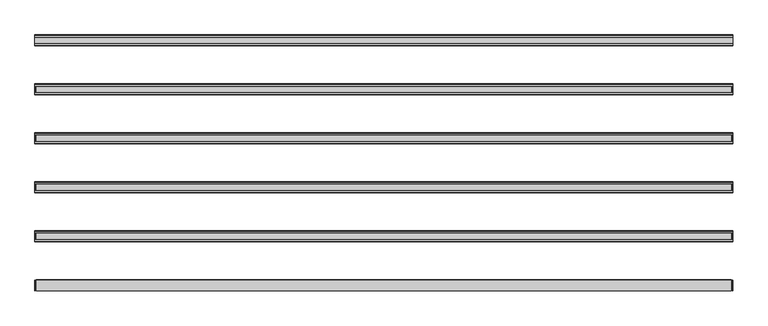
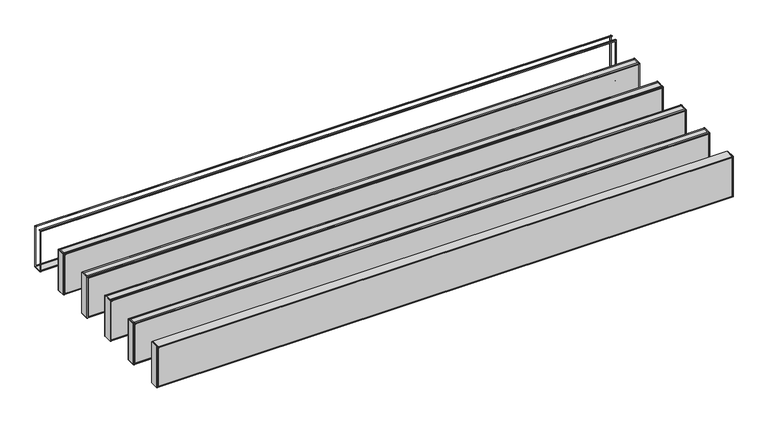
"""IFC4 building model written with IfcOpenShell, lengths in millimetres: proxy geometry, durlum_POLYLAM_KS : durlum_POLYLAM-KS/-S 63 RV-L6."""

from ifc_helpers import new_model, si_unit, frame, origin, place, context, project, spatial, polyline, circle_curve, outline, extrude, source, transform, mapped, element, save
from ifc_brep_helpers import plane_surface, cylinder_surface, advanced_brep


def generic_models_c9cba1a2(model_context):
    return source(origin(), model_context, "Body", "SolidModel", [
        advanced_brep(
        [(1995.0, 309.5, 1990.9), (1995.0, 299.5, 1990.9), (1995.0, 299.5, 1990.0604454), (1995.0, 310.5, 1990.0604454), (1995.0, 310.5, 1691.9), (1995.0, 249.5, 1691.9), (1995.0, 249.5, 1989.8155735), (1995.0, 260.5, 1989.8155735), (1995.0, 260.5, 1990.9), (1995.0, 250.5, 1990.9), (1995.0, 248.5, 1988.9), (1995.0, 248.5, 1692.9), (1995.0, 250.5, 1690.9), (1995.0, 309.5, 1690.9), (1995.0, 311.5, 1692.9), (1995.0, 311.5, 1988.9), (-1995.0, 309.5, 1990.9), (-1995.0, 311.5, 1988.9), (-1995.0, 311.5, 1692.9), (-1995.0, 309.5, 1690.9), (-1995.0, 250.5, 1690.9), (-1995.0, 248.5, 1692.9), (-1995.0, 248.5, 1988.9), (-1995.0, 250.5, 1990.9), (-1995.0, 260.5, 1990.9), (-1995.0, 260.5, 1989.8155735), (-1995.0, 249.5, 1989.8155735), (-1995.0, 249.5, 1691.9), (-1995.0, 310.5, 1691.9), (-1995.0, 310.5, 1990.0604454), (-1995.0, 299.5, 1990.0604454), (-1995.0, 299.5, 1990.9), (-1986.5, 310.5, 1982.4), (1986.5, 310.5, 1982.4), (1986.5, 310.5, 1699.4), (-1986.5, 310.5, 1699.4), (1986.5, 249.5, 1982.4), (-1986.5, 249.5, 1982.4), (-1986.5, 249.5, 1699.4), (1986.5, 249.5, 1699.4), (-1986.5, 248.5, 1982.4), (1986.5, 248.5, 1982.4), (1986.5, 248.5, 1699.4), (-1986.5, 248.5, 1699.4), (1986.5, 311.5, 1982.4), (-1986.5, 311.5, 1982.4), (-1986.5, 311.5, 1699.4), (1986.5, 311.5, 1699.4)],
        [
            (0, 1),
            (1, 2),
            (2, 3),
            (3, 4),
            (4, 5),
            (5, 6),
            (6, 7),
            (7, 8),
            (8, 9),
            (9, 10, circle_curve(frame((1995.0, 250.5, 1988.9), z_axis=(1.0, 0.0, 0.0), x_axis=(0.0, 1.0, 0.0)), 2.0)),
            (10, 11),
            (11, 12, circle_curve(frame((1995.0, 250.5, 1692.9), z_axis=(1.0, 0.0, 0.0), x_axis=(0.0, 1.0, 0.0)), 2.0)),
            (12, 13),
            (13, 14, circle_curve(frame((1995.0, 309.5, 1692.9), z_axis=(1.0, 0.0, 0.0), x_axis=(0.0, 1.0, 0.0)), 2.0)),
            (14, 15),
            (15, 0, circle_curve(frame((1995.0, 309.5, 1988.9), z_axis=(1.0, 0.0, 0.0), x_axis=(0.0, 1.0, 0.0)), 2.0)),
            (16, 17, circle_curve(frame((-1995.0, 309.5, 1988.9), z_axis=(-1.0, 0.0, 0.0), x_axis=(0.0, 1.0, 0.0)), 2.0)),
            (17, 18),
            (18, 19, circle_curve(frame((-1995.0, 309.5, 1692.9), z_axis=(-1.0, 0.0, 0.0), x_axis=(0.0, 1.0, 0.0)), 2.0)),
            (19, 20),
            (20, 21, circle_curve(frame((-1995.0, 250.5, 1692.9), z_axis=(-1.0, 0.0, 0.0), x_axis=(0.0, 1.0, 0.0)), 2.0)),
            (21, 22),
            (22, 23, circle_curve(frame((-1995.0, 250.5, 1988.9), z_axis=(-1.0, 0.0, 0.0), x_axis=(0.0, 1.0, 0.0)), 2.0)),
            (23, 24),
            (24, 25),
            (25, 26),
            (26, 27),
            (27, 28),
            (28, 29),
            (29, 30),
            (30, 31),
            (31, 16),
            (0, 16),
            (31, 1),
            (30, 2),
            (29, 3),
            (28, 4),
            (32, 33),
            (33, 34),
            (34, 35),
            (35, 32),
            (27, 5),
            (26, 6),
            (36, 37),
            (37, 38),
            (38, 39),
            (39, 36),
            (25, 7),
            (24, 8),
            (23, 9),
            (10, 22),
            (21, 11),
            (40, 41),
            (41, 42),
            (42, 43),
            (43, 40),
            (12, 20),
            (19, 13),
            (14, 18),
            (17, 15),
            (44, 45),
            (45, 46),
            (46, 47),
            (47, 44),
            (44, 33),
            (32, 45),
            (36, 41),
            (40, 37),
            (35, 46),
            (43, 38),
            (34, 47),
            (42, 39),
        ],
        [
            plane_surface(frame((1995.0, 299.5, 1990.9), z_axis=(1.0, 0.0, 0.0), x_axis=(0.0, -1.0, 0.0))),
            plane_surface(frame((-1995.0, 299.5, 1990.9), z_axis=(-1.0, 0.0, 0.0), x_axis=(0.0, 1.0, 0.0))),
            plane_surface(frame((1995.0, 309.5, 1990.9), z_axis=(0.0, 0.0, 1.0), x_axis=(-1.0, 0.0, 0.0))),
            plane_surface(frame((1995.0, 299.5, 1990.9), z_axis=(0.0, -1.0, 0.0), x_axis=(-1.0, 0.0, 0.0))),
            plane_surface(frame((1995.0, 299.5, 1990.0604454), z_axis=(0.0, 0.0, -1.0), x_axis=(-1.0, 0.0, 0.0))),
            plane_surface(frame((1995.0, 310.5, 1990.0604454), z_axis=(0.0, -1.0, 0.0), x_axis=(-1.0, 0.0, 0.0))),
            plane_surface(frame((1995.0, 310.5, 1691.9), z_axis=(0.0, 0.0, 1.0), x_axis=(-1.0, 0.0, 0.0))),
            plane_surface(frame((1995.0, 249.5, 1691.9), z_axis=(0.0, 1.0, 0.0), x_axis=(-1.0, 0.0, 0.0))),
            plane_surface(frame((1995.0, 249.5, 1989.8155735), z_axis=(0.0, 0.0, -1.0), x_axis=(-1.0, 0.0, 0.0))),
            plane_surface(frame((1995.0, 260.5, 1989.8155735), z_axis=(0.0, 1.0, 0.0), x_axis=(-1.0, 0.0, 0.0))),
            plane_surface(frame((1995.0, 260.5, 1990.9), z_axis=(0.0, 0.0, 1.0), x_axis=(-1.0, 0.0, 0.0))),
            plane_surface(frame((1995.0, 248.5, 1988.9), z_axis=(0.0, -1.0, 0.0), x_axis=(-1.0, 0.0, 0.0))),
            plane_surface(frame((1995.0, 250.5, 1690.9), z_axis=(0.0, 0.0, -1.0), x_axis=(-1.0, 0.0, 0.0))),
            plane_surface(frame((1995.0, 311.5, 1692.9), z_axis=(0.0, 1.0, 0.0), x_axis=(-1.0, 0.0, 0.0))),
            cylinder_surface(frame((-1995.0, 250.5, 1988.9), z_axis=(1.0, 0.0, 0.0), x_axis=(0.0, 1.0, 0.0)), 2.0),
            cylinder_surface(frame((-1995.0, 250.5, 1692.9), z_axis=(1.0, 0.0, 0.0), x_axis=(0.0, 1.0, 0.0)), 2.0),
            cylinder_surface(frame((-1995.0, 309.5, 1692.9), z_axis=(1.0, 0.0, 0.0), x_axis=(0.0, 1.0, 0.0)), 2.0),
            cylinder_surface(frame((-1995.0, 309.5, 1988.9), z_axis=(1.0, 0.0, 0.0), x_axis=(0.0, 1.0, 0.0)), 2.0),
            plane_surface(frame((1986.5, 248.5, 1982.4), z_axis=(0.0, 0.0, -1.0), x_axis=(0.0, 1.0, 0.0))),
            plane_surface(frame((-1986.5, 248.5, 1982.4), z_axis=(1.0, 0.0, 0.0), x_axis=(0.0, 1.0, 0.0))),
            plane_surface(frame((-1986.5, 248.5, 1699.4), z_axis=(0.0, 0.0, 1.0), x_axis=(0.0, 1.0, 0.0))),
            plane_surface(frame((1986.5, 248.5, 1699.4), z_axis=(-1.0, 0.0, 0.0), x_axis=(0.0, 1.0, 0.0))),
        ],
        [
            (0, [[1, 2, 3, 4, 5, 6, 7, 8, 9, 10, 11, 12, 13, 14, 15, 16]]),
            (1, [[17, 18, 19, 20, 21, 22, 23, 24, 25, 26, 27, 28, 29, 30, 31, 32]]),
            (2, [[-1, 33, -32, 34]]),
            (3, [[-2, -34, -31, 35]]),
            (4, [[-3, -35, -30, 36]]),
            (5, [[-4, -36, -29, 37], [38, 39, 40, 41]]),
            (6, [[-5, -37, -28, 42]]),
            (7, [[-6, -42, -27, 43], [44, 45, 46, 47]]),
            (8, [[-7, -43, -26, 48]]),
            (9, [[-8, -48, -25, 49]]),
            (10, [[-9, -49, -24, 50]]),
            (11, [[-11, 51, -22, 52], [53, 54, 55, 56]]),
            (12, [[-13, 57, -20, 58]]),
            (13, [[-15, 59, -18, 60], [61, 62, 63, 64]]),
            (14, [[-10, -50, -23, -51]]),
            (15, [[-12, -52, -21, -57]]),
            (16, [[-14, -58, -19, -59]]),
            (17, [[-16, -60, -17, -33]]),
            (18, [[65, -38, 66, -61]]),
            (18, [[67, -53, 68, -44]]),
            (19, [[-66, -41, 69, -62]]),
            (19, [[-68, -56, 70, -45]]),
            (20, [[-69, -40, 71, -63]]),
            (20, [[-70, -55, 72, -46]]),
            (21, [[-65, -64, -71, -39]]),
            (21, [[-67, -47, -72, -54]]),
        ],
    ),
        extrude(outline(polyline([(1993.0, 30.5), (1995.0, 30.5), (1995.0, -30.5), (1993.0, -30.5), (1993.0, 30.5)])), frame((0.0, 0.0, 1691.9), z_axis=(0.0, 0.0, 1.0), x_axis=(1.0, 0.0, 0.0)), (0.0, 0.0, 1.0), 298.1604454),
        extrude(outline(polyline([(-1995.0, 30.5), (-1993.0, 30.5), (-1993.0, -30.5), (-1995.0, -30.5), (-1995.0, 30.5)])), frame((0.0, 0.0, 1691.9), z_axis=(0.0, 0.0, 1.0), x_axis=(1.0, 0.0, 0.0)), (0.0, 0.0, 1.0), 298.1604454),
        extrude(outline(polyline([(1986.5, 30.5), (1986.5, -30.5), (-1986.5, -30.5), (-1986.5, 30.5), (1986.5, 30.5)])), frame((0.0, 0.0, 1691.9), z_axis=(0.0, 0.0, 1.0), x_axis=(1.0, 0.0, 0.0)), (0.0, 0.0, 1.0), 298.0),
        extrude(outline(polyline([(1986.5, 30.5), (-1986.5, 30.5), (-1986.5, 31.5), (1986.5, 31.5), (1986.5, 30.5)])), frame((0.0, 0.0, 1699.4), z_axis=(0.0, 0.0, 1.0), x_axis=(1.0, 0.0, 0.0)), (0.0, 0.0, 1.0), 283.0),
        extrude(outline(polyline([(1986.5, -31.5), (-1986.5, -31.5), (-1986.5, -30.5), (1986.5, -30.5), (1986.5, -31.5)])), frame((0.0, 0.0, 1699.4), z_axis=(0.0, 0.0, 1.0), x_axis=(1.0, 0.0, 0.0)), (0.0, 0.0, 1.0), 283.0),
        advanced_brep(
        [(1995.0, 29.5, 1990.9), (1995.0, 19.5, 1990.9), (1995.0, 19.5, 1990.0604454), (1995.0, 30.5, 1990.0604454), (1995.0, 30.5, 1691.9), (1995.0, -30.5, 1691.9), (1995.0, -30.5, 1989.8155735), (1995.0, -19.5, 1989.8155735), (1995.0, -19.5, 1990.9), (1995.0, -29.5, 1990.9), (1995.0, -31.5, 1988.9), (1995.0, -31.5, 1692.9), (1995.0, -29.5, 1690.9), (1995.0, 29.5, 1690.9), (1995.0, 31.5, 1692.9), (1995.0, 31.5, 1988.9), (-1995.0, 29.5, 1990.9), (-1995.0, 31.5, 1988.9), (-1995.0, 31.5, 1692.9), (-1995.0, 29.5, 1690.9), (-1995.0, -29.5, 1690.9), (-1995.0, -31.5, 1692.9), (-1995.0, -31.5, 1988.9), (-1995.0, -29.5, 1990.9), (-1995.0, -19.5, 1990.9), (-1995.0, -19.5, 1989.8155735), (-1995.0, -30.5, 1989.8155735), (-1995.0, -30.5, 1691.9), (-1995.0, 30.5, 1691.9), (-1995.0, 30.5, 1990.0604454), (-1995.0, 19.5, 1990.0604454), (-1995.0, 19.5, 1990.9), (-1986.5, 30.5, 1982.4), (1986.5, 30.5, 1982.4), (1986.5, 30.5, 1699.4), (-1986.5, 30.5, 1699.4), (1986.5, -30.5, 1982.4), (-1986.5, -30.5, 1982.4), (-1986.5, -30.5, 1699.4), (1986.5, -30.5, 1699.4), (-1986.5, -31.5, 1982.4), (1986.5, -31.5, 1982.4), (1986.5, -31.5, 1699.4), (-1986.5, -31.5, 1699.4), (1986.5, 31.5, 1982.4), (-1986.5, 31.5, 1982.4), (-1986.5, 31.5, 1699.4), (1986.5, 31.5, 1699.4)],
        [
            (0, 1),
            (1, 2),
            (2, 3),
            (3, 4),
            (4, 5),
            (5, 6),
            (6, 7),
            (7, 8),
            (8, 9),
            (9, 10, circle_curve(frame((1995.0, -29.5, 1988.9), z_axis=(1.0, 0.0, 0.0), x_axis=(0.0, 1.0, 0.0)), 2.0)),
            (10, 11),
            (11, 12, circle_curve(frame((1995.0, -29.5, 1692.9), z_axis=(1.0, 0.0, 0.0), x_axis=(0.0, 1.0, 0.0)), 2.0)),
            (12, 13),
            (13, 14, circle_curve(frame((1995.0, 29.5, 1692.9), z_axis=(1.0, 0.0, 0.0), x_axis=(0.0, 1.0, 0.0)), 2.0)),
            (14, 15),
            (15, 0, circle_curve(frame((1995.0, 29.5, 1988.9), z_axis=(1.0, 0.0, 0.0), x_axis=(0.0, 1.0, 0.0)), 2.0)),
            (16, 17, circle_curve(frame((-1995.0, 29.5, 1988.9), z_axis=(-1.0, 0.0, 0.0), x_axis=(0.0, 1.0, 0.0)), 2.0)),
            (17, 18),
            (18, 19, circle_curve(frame((-1995.0, 29.5, 1692.9), z_axis=(-1.0, 0.0, 0.0), x_axis=(0.0, 1.0, 0.0)), 2.0)),
            (19, 20),
            (20, 21, circle_curve(frame((-1995.0, -29.5, 1692.9), z_axis=(-1.0, 0.0, 0.0), x_axis=(0.0, 1.0, 0.0)), 2.0)),
            (21, 22),
            (22, 23, circle_curve(frame((-1995.0, -29.5, 1988.9), z_axis=(-1.0, 0.0, 0.0), x_axis=(0.0, 1.0, 0.0)), 2.0)),
            (23, 24),
            (24, 25),
            (25, 26),
            (26, 27),
            (27, 28),
            (28, 29),
            (29, 30),
            (30, 31),
            (31, 16),
            (0, 16),
            (31, 1),
            (30, 2),
            (29, 3),
            (28, 4),
            (32, 33),
            (33, 34),
            (34, 35),
            (35, 32),
            (27, 5),
            (26, 6),
            (36, 37),
            (37, 38),
            (38, 39),
            (39, 36),
            (25, 7),
            (24, 8),
            (23, 9),
            (10, 22),
            (21, 11),
            (40, 41),
            (41, 42),
            (42, 43),
            (43, 40),
            (12, 20),
            (19, 13),
            (14, 18),
            (17, 15),
            (44, 45),
            (45, 46),
            (46, 47),
            (47, 44),
            (44, 33),
            (32, 45),
            (36, 41),
            (40, 37),
            (35, 46),
            (43, 38),
            (34, 47),
            (42, 39),
        ],
        [
            plane_surface(frame((1995.0, 19.5, 1990.9), z_axis=(1.0, 0.0, 0.0), x_axis=(0.0, -1.0, 0.0))),
            plane_surface(frame((-1995.0, 19.5, 1990.9), z_axis=(-1.0, 0.0, 0.0), x_axis=(0.0, 1.0, 0.0))),
            plane_surface(frame((1995.0, 29.5, 1990.9), z_axis=(0.0, 0.0, 1.0), x_axis=(-1.0, 0.0, 0.0))),
            plane_surface(frame((1995.0, 19.5, 1990.9), z_axis=(0.0, -1.0, 0.0), x_axis=(-1.0, 0.0, 0.0))),
            plane_surface(frame((1995.0, 19.5, 1990.0604454), z_axis=(0.0, 0.0, -1.0), x_axis=(-1.0, 0.0, 0.0))),
            plane_surface(frame((1995.0, 30.5, 1990.0604454), z_axis=(0.0, -1.0, 0.0), x_axis=(-1.0, 0.0, 0.0))),
            plane_surface(frame((1995.0, 30.5, 1691.9), z_axis=(0.0, 0.0, 1.0), x_axis=(-1.0, 0.0, 0.0))),
            plane_surface(frame((1995.0, -30.5, 1691.9), z_axis=(0.0, 1.0, 0.0), x_axis=(-1.0, 0.0, 0.0))),
            plane_surface(frame((1995.0, -30.5, 1989.8155735), z_axis=(0.0, 0.0, -1.0), x_axis=(-1.0, 0.0, 0.0))),
            plane_surface(frame((1995.0, -19.5, 1989.8155735), z_axis=(0.0, 1.0, 0.0), x_axis=(-1.0, 0.0, 0.0))),
            plane_surface(frame((1995.0, -19.5, 1990.9), z_axis=(0.0, 0.0, 1.0), x_axis=(-1.0, 0.0, 0.0))),
            plane_surface(frame((1995.0, -31.5, 1988.9), z_axis=(0.0, -1.0, 0.0), x_axis=(-1.0, 0.0, 0.0))),
            plane_surface(frame((1995.0, -29.5, 1690.9), z_axis=(0.0, 0.0, -1.0), x_axis=(-1.0, 0.0, 0.0))),
            plane_surface(frame((1995.0, 31.5, 1692.9), z_axis=(0.0, 1.0, 0.0), x_axis=(-1.0, 0.0, 0.0))),
            cylinder_surface(frame((-1995.0, -29.5, 1988.9), z_axis=(1.0, 0.0, 0.0), x_axis=(0.0, 1.0, 0.0)), 2.0),
            cylinder_surface(frame((-1995.0, -29.5, 1692.9), z_axis=(1.0, 0.0, 0.0), x_axis=(0.0, 1.0, 0.0)), 2.0),
            cylinder_surface(frame((-1995.0, 29.5, 1692.9), z_axis=(1.0, 0.0, 0.0), x_axis=(0.0, 1.0, 0.0)), 2.0),
            cylinder_surface(frame((-1995.0, 29.5, 1988.9), z_axis=(1.0, 0.0, 0.0), x_axis=(0.0, 1.0, 0.0)), 2.0),
            plane_surface(frame((1986.5, -31.5, 1982.4), z_axis=(0.0, 0.0, -1.0), x_axis=(0.0, 1.0, 0.0))),
            plane_surface(frame((-1986.5, -31.5, 1982.4), z_axis=(1.0, 0.0, 0.0), x_axis=(0.0, 1.0, 0.0))),
            plane_surface(frame((-1986.5, -31.5, 1699.4), z_axis=(0.0, 0.0, 1.0), x_axis=(0.0, 1.0, 0.0))),
            plane_surface(frame((1986.5, -31.5, 1699.4), z_axis=(-1.0, 0.0, 0.0), x_axis=(0.0, 1.0, 0.0))),
        ],
        [
            (0, [[1, 2, 3, 4, 5, 6, 7, 8, 9, 10, 11, 12, 13, 14, 15, 16]]),
            (1, [[17, 18, 19, 20, 21, 22, 23, 24, 25, 26, 27, 28, 29, 30, 31, 32]]),
            (2, [[-1, 33, -32, 34]]),
            (3, [[-2, -34, -31, 35]]),
            (4, [[-3, -35, -30, 36]]),
            (5, [[-4, -36, -29, 37], [38, 39, 40, 41]]),
            (6, [[-5, -37, -28, 42]]),
            (7, [[-6, -42, -27, 43], [44, 45, 46, 47]]),
            (8, [[-7, -43, -26, 48]]),
            (9, [[-8, -48, -25, 49]]),
            (10, [[-9, -49, -24, 50]]),
            (11, [[-11, 51, -22, 52], [53, 54, 55, 56]]),
            (12, [[-13, 57, -20, 58]]),
            (13, [[-15, 59, -18, 60], [61, 62, 63, 64]]),
            (14, [[-10, -50, -23, -51]]),
            (15, [[-12, -52, -21, -57]]),
            (16, [[-14, -58, -19, -59]]),
            (17, [[-16, -60, -17, -33]]),
            (18, [[65, -38, 66, -61]]),
            (18, [[67, -53, 68, -44]]),
            (19, [[-66, -41, 69, -62]]),
            (19, [[-68, -56, 70, -45]]),
            (20, [[-69, -40, 71, -63]]),
            (20, [[-70, -55, 72, -46]]),
            (21, [[-65, -64, -71, -39]]),
            (21, [[-67, -47, -72, -54]]),
        ],
    ),
        extrude(outline(polyline([(1993.0, -249.5), (1995.0, -249.5), (1995.0, -310.5), (1993.0, -310.5), (1993.0, -249.5)])), frame((0.0, 0.0, 1691.9), z_axis=(0.0, 0.0, 1.0), x_axis=(1.0, 0.0, 0.0)), (0.0, 0.0, 1.0), 298.1604454),
        extrude(outline(polyline([(-1995.0, -249.5), (-1993.0, -249.5), (-1993.0, -310.5), (-1995.0, -310.5), (-1995.0, -249.5)])), frame((0.0, 0.0, 1691.9), z_axis=(0.0, 0.0, 1.0), x_axis=(1.0, 0.0, 0.0)), (0.0, 0.0, 1.0), 298.1604454),
        extrude(outline(polyline([(1986.5, -249.5), (1986.5, -310.5), (-1986.5, -310.5), (-1986.5, -249.5), (1986.5, -249.5)])), frame((0.0, 0.0, 1691.9), z_axis=(0.0, 0.0, 1.0), x_axis=(1.0, 0.0, 0.0)), (0.0, 0.0, 1.0), 298.0),
        extrude(outline(polyline([(1986.5, -249.5), (-1986.5, -249.5), (-1986.5, -248.5), (1986.5, -248.5), (1986.5, -249.5)])), frame((0.0, 0.0, 1699.4), z_axis=(0.0, 0.0, 1.0), x_axis=(1.0, 0.0, 0.0)), (0.0, 0.0, 1.0), 283.0),
        extrude(outline(polyline([(1986.5, -311.5), (-1986.5, -311.5), (-1986.5, -310.5), (1986.5, -310.5), (1986.5, -311.5)])), frame((0.0, 0.0, 1699.4), z_axis=(0.0, 0.0, 1.0), x_axis=(1.0, 0.0, 0.0)), (0.0, 0.0, 1.0), 283.0),
        advanced_brep(
        [(1995.0, -250.5, 1990.9), (1995.0, -260.5, 1990.9), (1995.0, -260.5, 1990.0604454), (1995.0, -249.5, 1990.0604454), (1995.0, -249.5, 1691.9), (1995.0, -310.5, 1691.9), (1995.0, -310.5, 1989.8155735), (1995.0, -299.5, 1989.8155735), (1995.0, -299.5, 1990.9), (1995.0, -309.5, 1990.9), (1995.0, -311.5, 1988.9), (1995.0, -311.5, 1692.9), (1995.0, -309.5, 1690.9), (1995.0, -250.5, 1690.9), (1995.0, -248.5, 1692.9), (1995.0, -248.5, 1988.9), (-1995.0, -250.5, 1990.9), (-1995.0, -248.5, 1988.9), (-1995.0, -248.5, 1692.9), (-1995.0, -250.5, 1690.9), (-1995.0, -309.5, 1690.9), (-1995.0, -311.5, 1692.9), (-1995.0, -311.5, 1988.9), (-1995.0, -309.5, 1990.9), (-1995.0, -299.5, 1990.9), (-1995.0, -299.5, 1989.8155735), (-1995.0, -310.5, 1989.8155735), (-1995.0, -310.5, 1691.9), (-1995.0, -249.5, 1691.9), (-1995.0, -249.5, 1990.0604454), (-1995.0, -260.5, 1990.0604454), (-1995.0, -260.5, 1990.9), (-1986.5, -249.5, 1982.4), (1986.5, -249.5, 1982.4), (1986.5, -249.5, 1699.4), (-1986.5, -249.5, 1699.4), (1986.5, -310.5, 1982.4), (-1986.5, -310.5, 1982.4), (-1986.5, -310.5, 1699.4), (1986.5, -310.5, 1699.4), (-1986.5, -311.5, 1982.4), (1986.5, -311.5, 1982.4), (1986.5, -311.5, 1699.4), (-1986.5, -311.5, 1699.4), (1986.5, -248.5, 1982.4), (-1986.5, -248.5, 1982.4), (-1986.5, -248.5, 1699.4), (1986.5, -248.5, 1699.4)],
        [
            (0, 1),
            (1, 2),
            (2, 3),
            (3, 4),
            (4, 5),
            (5, 6),
            (6, 7),
            (7, 8),
            (8, 9),
            (9, 10, circle_curve(frame((1995.0, -309.5, 1988.9), z_axis=(1.0, 0.0, 0.0), x_axis=(0.0, 1.0, 0.0)), 2.0)),
            (10, 11),
            (11, 12, circle_curve(frame((1995.0, -309.5, 1692.9), z_axis=(1.0, 0.0, 0.0), x_axis=(0.0, 1.0, 0.0)), 2.0)),
            (12, 13),
            (13, 14, circle_curve(frame((1995.0, -250.5, 1692.9), z_axis=(1.0, 0.0, 0.0), x_axis=(0.0, 1.0, 0.0)), 2.0)),
            (14, 15),
            (15, 0, circle_curve(frame((1995.0, -250.5, 1988.9), z_axis=(1.0, 0.0, 0.0), x_axis=(0.0, 1.0, 0.0)), 2.0)),
            (16, 17, circle_curve(frame((-1995.0, -250.5, 1988.9), z_axis=(-1.0, 0.0, 0.0), x_axis=(0.0, 1.0, 0.0)), 2.0)),
            (17, 18),
            (18, 19, circle_curve(frame((-1995.0, -250.5, 1692.9), z_axis=(-1.0, 0.0, 0.0), x_axis=(0.0, 1.0, 0.0)), 2.0)),
            (19, 20),
            (20, 21, circle_curve(frame((-1995.0, -309.5, 1692.9), z_axis=(-1.0, 0.0, 0.0), x_axis=(0.0, 1.0, 0.0)), 2.0)),
            (21, 22),
            (22, 23, circle_curve(frame((-1995.0, -309.5, 1988.9), z_axis=(-1.0, 0.0, 0.0), x_axis=(0.0, 1.0, 0.0)), 2.0)),
            (23, 24),
            (24, 25),
            (25, 26),
            (26, 27),
            (27, 28),
            (28, 29),
            (29, 30),
            (30, 31),
            (31, 16),
            (0, 16),
            (31, 1),
            (30, 2),
            (29, 3),
            (28, 4),
            (32, 33),
            (33, 34),
            (34, 35),
            (35, 32),
            (27, 5),
            (26, 6),
            (36, 37),
            (37, 38),
            (38, 39),
            (39, 36),
            (25, 7),
            (24, 8),
            (23, 9),
            (10, 22),
            (21, 11),
            (40, 41),
            (41, 42),
            (42, 43),
            (43, 40),
            (12, 20),
            (19, 13),
            (14, 18),
            (17, 15),
            (44, 45),
            (45, 46),
            (46, 47),
            (47, 44),
            (44, 33),
            (32, 45),
            (36, 41),
            (40, 37),
            (35, 46),
            (43, 38),
            (34, 47),
            (42, 39),
        ],
        [
            plane_surface(frame((1995.0, -260.5, 1990.9), z_axis=(1.0, 0.0, 0.0), x_axis=(0.0, -1.0, 0.0))),
            plane_surface(frame((-1995.0, -260.5, 1990.9), z_axis=(-1.0, 0.0, 0.0), x_axis=(0.0, 1.0, 0.0))),
            plane_surface(frame((1995.0, -250.5, 1990.9), z_axis=(0.0, 0.0, 1.0), x_axis=(-1.0, 0.0, 0.0))),
            plane_surface(frame((1995.0, -260.5, 1990.9), z_axis=(0.0, -1.0, 0.0), x_axis=(-1.0, 0.0, 0.0))),
            plane_surface(frame((1995.0, -260.5, 1990.0604454), z_axis=(0.0, 0.0, -1.0), x_axis=(-1.0, 0.0, 0.0))),
            plane_surface(frame((1995.0, -249.5, 1990.0604454), z_axis=(0.0, -1.0, 0.0), x_axis=(-1.0, 0.0, 0.0))),
            plane_surface(frame((1995.0, -249.5, 1691.9), z_axis=(0.0, 0.0, 1.0), x_axis=(-1.0, 0.0, 0.0))),
            plane_surface(frame((1995.0, -310.5, 1691.9), z_axis=(0.0, 1.0, 0.0), x_axis=(-1.0, 0.0, 0.0))),
            plane_surface(frame((1995.0, -310.5, 1989.8155735), z_axis=(0.0, 0.0, -1.0), x_axis=(-1.0, 0.0, 0.0))),
            plane_surface(frame((1995.0, -299.5, 1989.8155735), z_axis=(0.0, 1.0, 0.0), x_axis=(-1.0, 0.0, 0.0))),
            plane_surface(frame((1995.0, -299.5, 1990.9), z_axis=(0.0, 0.0, 1.0), x_axis=(-1.0, 0.0, 0.0))),
            plane_surface(frame((1995.0, -311.5, 1988.9), z_axis=(0.0, -1.0, 0.0), x_axis=(-1.0, 0.0, 0.0))),
            plane_surface(frame((1995.0, -309.5, 1690.9), z_axis=(0.0, 0.0, -1.0), x_axis=(-1.0, 0.0, 0.0))),
            plane_surface(frame((1995.0, -248.5, 1692.9), z_axis=(0.0, 1.0, 0.0), x_axis=(-1.0, 0.0, 0.0))),
            cylinder_surface(frame((-1995.0, -309.5, 1988.9), z_axis=(1.0, 0.0, 0.0), x_axis=(0.0, 1.0, 0.0)), 2.0),
            cylinder_surface(frame((-1995.0, -309.5, 1692.9), z_axis=(1.0, 0.0, 0.0), x_axis=(0.0, 1.0, 0.0)), 2.0),
            cylinder_surface(frame((-1995.0, -250.5, 1692.9), z_axis=(1.0, 0.0, 0.0), x_axis=(0.0, 1.0, 0.0)), 2.0),
            cylinder_surface(frame((-1995.0, -250.5, 1988.9), z_axis=(1.0, 0.0, 0.0), x_axis=(0.0, 1.0, 0.0)), 2.0),
            plane_surface(frame((1986.5, -311.5, 1982.4), z_axis=(0.0, 0.0, -1.0), x_axis=(0.0, 1.0, 0.0))),
            plane_surface(frame((-1986.5, -311.5, 1982.4), z_axis=(1.0, 0.0, 0.0), x_axis=(0.0, 1.0, 0.0))),
            plane_surface(frame((-1986.5, -311.5, 1699.4), z_axis=(0.0, 0.0, 1.0), x_axis=(0.0, 1.0, 0.0))),
            plane_surface(frame((1986.5, -311.5, 1699.4), z_axis=(-1.0, 0.0, 0.0), x_axis=(0.0, 1.0, 0.0))),
        ],
        [
            (0, [[1, 2, 3, 4, 5, 6, 7, 8, 9, 10, 11, 12, 13, 14, 15, 16]]),
            (1, [[17, 18, 19, 20, 21, 22, 23, 24, 25, 26, 27, 28, 29, 30, 31, 32]]),
            (2, [[-1, 33, -32, 34]]),
            (3, [[-2, -34, -31, 35]]),
            (4, [[-3, -35, -30, 36]]),
            (5, [[-4, -36, -29, 37], [38, 39, 40, 41]]),
            (6, [[-5, -37, -28, 42]]),
            (7, [[-6, -42, -27, 43], [44, 45, 46, 47]]),
            (8, [[-7, -43, -26, 48]]),
            (9, [[-8, -48, -25, 49]]),
            (10, [[-9, -49, -24, 50]]),
            (11, [[-11, 51, -22, 52], [53, 54, 55, 56]]),
            (12, [[-13, 57, -20, 58]]),
            (13, [[-15, 59, -18, 60], [61, 62, 63, 64]]),
            (14, [[-10, -50, -23, -51]]),
            (15, [[-12, -52, -21, -57]]),
            (16, [[-14, -58, -19, -59]]),
            (17, [[-16, -60, -17, -33]]),
            (18, [[65, -38, 66, -61]]),
            (18, [[67, -53, 68, -44]]),
            (19, [[-66, -41, 69, -62]]),
            (19, [[-68, -56, 70, -45]]),
            (20, [[-69, -40, 71, -63]]),
            (20, [[-70, -55, 72, -46]]),
            (21, [[-65, -64, -71, -39]]),
            (21, [[-67, -47, -72, -54]]),
        ],
    ),
        extrude(outline(polyline([(1993.0, -529.5), (1995.0, -529.5), (1995.0, -590.5), (1993.0, -590.5), (1993.0, -529.5)])), frame((0.0, 0.0, 1691.9), z_axis=(0.0, 0.0, 1.0), x_axis=(1.0, 0.0, 0.0)), (0.0, 0.0, 1.0), 298.1604454),
        extrude(outline(polyline([(-1995.0, -529.5), (-1993.0, -529.5), (-1993.0, -590.5), (-1995.0, -590.5), (-1995.0, -529.5)])), frame((0.0, 0.0, 1691.9), z_axis=(0.0, 0.0, 1.0), x_axis=(1.0, 0.0, 0.0)), (0.0, 0.0, 1.0), 298.1604454),
        extrude(outline(polyline([(1986.5, -529.5), (1986.5, -590.5), (-1986.5, -590.5), (-1986.5, -529.5), (1986.5, -529.5)])), frame((0.0, 0.0, 1691.9), z_axis=(0.0, 0.0, 1.0), x_axis=(1.0, 0.0, 0.0)), (0.0, 0.0, 1.0), 298.0),
        extrude(outline(polyline([(1986.5, -529.5), (-1986.5, -529.5), (-1986.5, -528.5), (1986.5, -528.5), (1986.5, -529.5)])), frame((0.0, 0.0, 1699.4), z_axis=(0.0, 0.0, 1.0), x_axis=(1.0, 0.0, 0.0)), (0.0, 0.0, 1.0), 283.0),
        extrude(outline(polyline([(1986.5, -591.5), (-1986.5, -591.5), (-1986.5, -590.5), (1986.5, -590.5), (1986.5, -591.5)])), frame((0.0, 0.0, 1699.4), z_axis=(0.0, 0.0, 1.0), x_axis=(1.0, 0.0, 0.0)), (0.0, 0.0, 1.0), 283.0),
        advanced_brep(
        [(1995.0, -530.5, 1990.9), (1995.0, -540.5, 1990.9), (1995.0, -540.5, 1990.0604454), (1995.0, -529.5, 1990.0604454), (1995.0, -529.5, 1691.9), (1995.0, -590.5, 1691.9), (1995.0, -590.5, 1989.8155735), (1995.0, -579.5, 1989.8155735), (1995.0, -579.5, 1990.9), (1995.0, -589.5, 1990.9), (1995.0, -591.5, 1988.9), (1995.0, -591.5, 1692.9), (1995.0, -589.5, 1690.9), (1995.0, -530.5, 1690.9), (1995.0, -528.5, 1692.9), (1995.0, -528.5, 1988.9), (-1995.0, -530.5, 1990.9), (-1995.0, -528.5, 1988.9), (-1995.0, -528.5, 1692.9), (-1995.0, -530.5, 1690.9), (-1995.0, -589.5, 1690.9), (-1995.0, -591.5, 1692.9), (-1995.0, -591.5, 1988.9), (-1995.0, -589.5, 1990.9), (-1995.0, -579.5, 1990.9), (-1995.0, -579.5, 1989.8155735), (-1995.0, -590.5, 1989.8155735), (-1995.0, -590.5, 1691.9), (-1995.0, -529.5, 1691.9), (-1995.0, -529.5, 1990.0604454), (-1995.0, -540.5, 1990.0604454), (-1995.0, -540.5, 1990.9), (-1986.5, -529.5, 1982.4), (1986.5, -529.5, 1982.4), (1986.5, -529.5, 1699.4), (-1986.5, -529.5, 1699.4), (1986.5, -590.5, 1982.4), (-1986.5, -590.5, 1982.4), (-1986.5, -590.5, 1699.4), (1986.5, -590.5, 1699.4), (-1986.5, -591.5, 1982.4), (1986.5, -591.5, 1982.4), (1986.5, -591.5, 1699.4), (-1986.5, -591.5, 1699.4), (1986.5, -528.5, 1982.4), (-1986.5, -528.5, 1982.4), (-1986.5, -528.5, 1699.4), (1986.5, -528.5, 1699.4)],
        [
            (0, 1),
            (1, 2),
            (2, 3),
            (3, 4),
            (4, 5),
            (5, 6),
            (6, 7),
            (7, 8),
            (8, 9),
            (9, 10, circle_curve(frame((1995.0, -589.5, 1988.9), z_axis=(1.0, 0.0, 0.0), x_axis=(0.0, 1.0, 0.0)), 2.0)),
            (10, 11),
            (11, 12, circle_curve(frame((1995.0, -589.5, 1692.9), z_axis=(1.0, 0.0, 0.0), x_axis=(0.0, 1.0, 0.0)), 2.0)),
            (12, 13),
            (13, 14, circle_curve(frame((1995.0, -530.5, 1692.9), z_axis=(1.0, 0.0, 0.0), x_axis=(0.0, 1.0, 0.0)), 2.0)),
            (14, 15),
            (15, 0, circle_curve(frame((1995.0, -530.5, 1988.9), z_axis=(1.0, 0.0, 0.0), x_axis=(0.0, 1.0, 0.0)), 2.0)),
            (16, 17, circle_curve(frame((-1995.0, -530.5, 1988.9), z_axis=(-1.0, 0.0, 0.0), x_axis=(0.0, 1.0, 0.0)), 2.0)),
            (17, 18),
            (18, 19, circle_curve(frame((-1995.0, -530.5, 1692.9), z_axis=(-1.0, 0.0, 0.0), x_axis=(0.0, 1.0, 0.0)), 2.0)),
            (19, 20),
            (20, 21, circle_curve(frame((-1995.0, -589.5, 1692.9), z_axis=(-1.0, 0.0, 0.0), x_axis=(0.0, 1.0, 0.0)), 2.0)),
            (21, 22),
            (22, 23, circle_curve(frame((-1995.0, -589.5, 1988.9), z_axis=(-1.0, 0.0, 0.0), x_axis=(0.0, 1.0, 0.0)), 2.0)),
            (23, 24),
            (24, 25),
            (25, 26),
            (26, 27),
            (27, 28),
            (28, 29),
            (29, 30),
            (30, 31),
            (31, 16),
            (0, 16),
            (31, 1),
            (30, 2),
            (29, 3),
            (28, 4),
            (32, 33),
            (33, 34),
            (34, 35),
            (35, 32),
            (27, 5),
            (26, 6),
            (36, 37),
            (37, 38),
            (38, 39),
            (39, 36),
            (25, 7),
            (24, 8),
            (23, 9),
            (10, 22),
            (21, 11),
            (40, 41),
            (41, 42),
            (42, 43),
            (43, 40),
            (12, 20),
            (19, 13),
            (14, 18),
            (17, 15),
            (44, 45),
            (45, 46),
            (46, 47),
            (47, 44),
            (44, 33),
            (32, 45),
            (36, 41),
            (40, 37),
            (35, 46),
            (43, 38),
            (34, 47),
            (42, 39),
        ],
        [
            plane_surface(frame((1995.0, -540.5, 1990.9), z_axis=(1.0, 0.0, 0.0), x_axis=(0.0, -1.0, 0.0))),
            plane_surface(frame((-1995.0, -540.5, 1990.9), z_axis=(-1.0, 0.0, 0.0), x_axis=(0.0, 1.0, 0.0))),
            plane_surface(frame((1995.0, -530.5, 1990.9), z_axis=(0.0, 0.0, 1.0), x_axis=(-1.0, 0.0, 0.0))),
            plane_surface(frame((1995.0, -540.5, 1990.9), z_axis=(0.0, -1.0, 0.0), x_axis=(-1.0, 0.0, 0.0))),
            plane_surface(frame((1995.0, -540.5, 1990.0604454), z_axis=(0.0, 0.0, -1.0), x_axis=(-1.0, 0.0, 0.0))),
            plane_surface(frame((1995.0, -529.5, 1990.0604454), z_axis=(0.0, -1.0, 0.0), x_axis=(-1.0, 0.0, 0.0))),
            plane_surface(frame((1995.0, -529.5, 1691.9), z_axis=(0.0, 0.0, 1.0), x_axis=(-1.0, 0.0, 0.0))),
            plane_surface(frame((1995.0, -590.5, 1691.9), z_axis=(0.0, 1.0, 0.0), x_axis=(-1.0, 0.0, 0.0))),
            plane_surface(frame((1995.0, -590.5, 1989.8155735), z_axis=(0.0, 0.0, -1.0), x_axis=(-1.0, 0.0, 0.0))),
            plane_surface(frame((1995.0, -579.5, 1989.8155735), z_axis=(0.0, 1.0, 0.0), x_axis=(-1.0, 0.0, 0.0))),
            plane_surface(frame((1995.0, -579.5, 1990.9), z_axis=(0.0, 0.0, 1.0), x_axis=(-1.0, 0.0, 0.0))),
            plane_surface(frame((1995.0, -591.5, 1988.9), z_axis=(0.0, -1.0, 0.0), x_axis=(-1.0, 0.0, 0.0))),
            plane_surface(frame((1995.0, -589.5, 1690.9), z_axis=(0.0, 0.0, -1.0), x_axis=(-1.0, 0.0, 0.0))),
            plane_surface(frame((1995.0, -528.5, 1692.9), z_axis=(0.0, 1.0, 0.0), x_axis=(-1.0, 0.0, 0.0))),
            cylinder_surface(frame((-1995.0, -589.5, 1988.9), z_axis=(1.0, 0.0, 0.0), x_axis=(0.0, 1.0, 0.0)), 2.0),
            cylinder_surface(frame((-1995.0, -589.5, 1692.9), z_axis=(1.0, 0.0, 0.0), x_axis=(0.0, 1.0, 0.0)), 2.0),
            cylinder_surface(frame((-1995.0, -530.5, 1692.9), z_axis=(1.0, 0.0, 0.0), x_axis=(0.0, 1.0, 0.0)), 2.0),
            cylinder_surface(frame((-1995.0, -530.5, 1988.9), z_axis=(1.0, 0.0, 0.0), x_axis=(0.0, 1.0, 0.0)), 2.0),
            plane_surface(frame((1986.5, -591.5, 1982.4), z_axis=(0.0, 0.0, -1.0), x_axis=(0.0, 1.0, 0.0))),
            plane_surface(frame((-1986.5, -591.5, 1982.4), z_axis=(1.0, 0.0, 0.0), x_axis=(0.0, 1.0, 0.0))),
            plane_surface(frame((-1986.5, -591.5, 1699.4), z_axis=(0.0, 0.0, 1.0), x_axis=(0.0, 1.0, 0.0))),
            plane_surface(frame((1986.5, -591.5, 1699.4), z_axis=(-1.0, 0.0, 0.0), x_axis=(0.0, 1.0, 0.0))),
        ],
        [
            (0, [[1, 2, 3, 4, 5, 6, 7, 8, 9, 10, 11, 12, 13, 14, 15, 16]]),
            (1, [[17, 18, 19, 20, 21, 22, 23, 24, 25, 26, 27, 28, 29, 30, 31, 32]]),
            (2, [[-1, 33, -32, 34]]),
            (3, [[-2, -34, -31, 35]]),
            (4, [[-3, -35, -30, 36]]),
            (5, [[-4, -36, -29, 37], [38, 39, 40, 41]]),
            (6, [[-5, -37, -28, 42]]),
            (7, [[-6, -42, -27, 43], [44, 45, 46, 47]]),
            (8, [[-7, -43, -26, 48]]),
            (9, [[-8, -48, -25, 49]]),
            (10, [[-9, -49, -24, 50]]),
            (11, [[-11, 51, -22, 52], [53, 54, 55, 56]]),
            (12, [[-13, 57, -20, 58]]),
            (13, [[-15, 59, -18, 60], [61, 62, 63, 64]]),
            (14, [[-10, -50, -23, -51]]),
            (15, [[-12, -52, -21, -57]]),
            (16, [[-14, -58, -19, -59]]),
            (17, [[-16, -60, -17, -33]]),
            (18, [[65, -38, 66, -61]]),
            (18, [[67, -53, 68, -44]]),
            (19, [[-66, -41, 69, -62]]),
            (19, [[-68, -56, 70, -45]]),
            (20, [[-69, -40, 71, -63]]),
            (20, [[-70, -55, 72, -46]]),
            (21, [[-65, -64, -71, -39]]),
            (21, [[-67, -47, -72, -54]]),
        ],
    ),
        extrude(outline(polyline([(1993.0, -809.5), (1995.0, -809.5), (1995.0, -870.5), (1993.0, -870.5), (1993.0, -809.5)])), frame((0.0, 0.0, 1691.9), z_axis=(0.0, 0.0, 1.0), x_axis=(1.0, 0.0, 0.0)), (0.0, 0.0, 1.0), 298.1604454),
        extrude(outline(polyline([(-1995.0, -809.5), (-1993.0, -809.5), (-1993.0, -870.5), (-1995.0, -870.5), (-1995.0, -809.5)])), frame((0.0, 0.0, 1691.9), z_axis=(0.0, 0.0, 1.0), x_axis=(1.0, 0.0, 0.0)), (0.0, 0.0, 1.0), 298.1604454),
        extrude(outline(polyline([(1986.5, -809.5), (1986.5, -870.5), (-1986.5, -870.5), (-1986.5, -809.5), (1986.5, -809.5)])), frame((0.0, 0.0, 1691.9), z_axis=(0.0, 0.0, 1.0), x_axis=(1.0, 0.0, 0.0)), (0.0, 0.0, 1.0), 298.0),
        extrude(outline(polyline([(1986.5, -809.5), (-1986.5, -809.5), (-1986.5, -808.5), (1986.5, -808.5), (1986.5, -809.5)])), frame((0.0, 0.0, 1699.4), z_axis=(0.0, 0.0, 1.0), x_axis=(1.0, 0.0, 0.0)), (0.0, 0.0, 1.0), 283.0),
        extrude(outline(polyline([(1986.5, -871.5), (-1986.5, -871.5), (-1986.5, -870.5), (1986.5, -870.5), (1986.5, -871.5)])), frame((0.0, 0.0, 1699.4), z_axis=(0.0, 0.0, 1.0), x_axis=(1.0, 0.0, 0.0)), (0.0, 0.0, 1.0), 283.0),
        advanced_brep(
        [(1995.0, -810.5, 1990.9), (1995.0, -820.5, 1990.9), (1995.0, -820.5, 1990.0604454), (1995.0, -809.5, 1990.0604454), (1995.0, -809.5, 1691.9), (1995.0, -870.5, 1691.9), (1995.0, -870.5, 1989.8155735), (1995.0, -859.5, 1989.8155735), (1995.0, -859.5, 1990.9), (1995.0, -869.5, 1990.9), (1995.0, -871.5, 1988.9), (1995.0, -871.5, 1692.9), (1995.0, -869.5, 1690.9), (1995.0, -810.5, 1690.9), (1995.0, -808.5, 1692.9), (1995.0, -808.5, 1988.9), (-1995.0, -810.5, 1990.9), (-1995.0, -808.5, 1988.9), (-1995.0, -808.5, 1692.9), (-1995.0, -810.5, 1690.9), (-1995.0, -869.5, 1690.9), (-1995.0, -871.5, 1692.9), (-1995.0, -871.5, 1988.9), (-1995.0, -869.5, 1990.9), (-1995.0, -859.5, 1990.9), (-1995.0, -859.5, 1989.8155735), (-1995.0, -870.5, 1989.8155735), (-1995.0, -870.5, 1691.9), (-1995.0, -809.5, 1691.9), (-1995.0, -809.5, 1990.0604454), (-1995.0, -820.5, 1990.0604454), (-1995.0, -820.5, 1990.9), (-1986.5, -809.5, 1982.4), (1986.5, -809.5, 1982.4), (1986.5, -809.5, 1699.4), (-1986.5, -809.5, 1699.4), (1986.5, -870.5, 1982.4), (-1986.5, -870.5, 1982.4), (-1986.5, -870.5, 1699.4), (1986.5, -870.5, 1699.4), (-1986.5, -871.5, 1982.4), (1986.5, -871.5, 1982.4), (1986.5, -871.5, 1699.4), (-1986.5, -871.5, 1699.4), (1986.5, -808.5, 1982.4), (-1986.5, -808.5, 1982.4), (-1986.5, -808.5, 1699.4), (1986.5, -808.5, 1699.4)],
        [
            (0, 1),
            (1, 2),
            (2, 3),
            (3, 4),
            (4, 5),
            (5, 6),
            (6, 7),
            (7, 8),
            (8, 9),
            (9, 10, circle_curve(frame((1995.0, -869.5, 1988.9), z_axis=(1.0, 0.0, 0.0), x_axis=(0.0, 1.0, 0.0)), 2.0)),
            (10, 11),
            (11, 12, circle_curve(frame((1995.0, -869.5, 1692.9), z_axis=(1.0, 0.0, 0.0), x_axis=(0.0, 1.0, 0.0)), 2.0)),
            (12, 13),
            (13, 14, circle_curve(frame((1995.0, -810.5, 1692.9), z_axis=(1.0, 0.0, 0.0), x_axis=(0.0, 1.0, 0.0)), 2.0)),
            (14, 15),
            (15, 0, circle_curve(frame((1995.0, -810.5, 1988.9), z_axis=(1.0, 0.0, 0.0), x_axis=(0.0, 1.0, 0.0)), 2.0)),
            (16, 17, circle_curve(frame((-1995.0, -810.5, 1988.9), z_axis=(-1.0, 0.0, 0.0), x_axis=(0.0, 1.0, 0.0)), 2.0)),
            (17, 18),
            (18, 19, circle_curve(frame((-1995.0, -810.5, 1692.9), z_axis=(-1.0, 0.0, 0.0), x_axis=(0.0, 1.0, 0.0)), 2.0)),
            (19, 20),
            (20, 21, circle_curve(frame((-1995.0, -869.5, 1692.9), z_axis=(-1.0, 0.0, 0.0), x_axis=(0.0, 1.0, 0.0)), 2.0)),
            (21, 22),
            (22, 23, circle_curve(frame((-1995.0, -869.5, 1988.9), z_axis=(-1.0, 0.0, 0.0), x_axis=(0.0, 1.0, 0.0)), 2.0)),
            (23, 24),
            (24, 25),
            (25, 26),
            (26, 27),
            (27, 28),
            (28, 29),
            (29, 30),
            (30, 31),
            (31, 16),
            (0, 16),
            (31, 1),
            (30, 2),
            (29, 3),
            (28, 4),
            (32, 33),
            (33, 34),
            (34, 35),
            (35, 32),
            (27, 5),
            (26, 6),
            (36, 37),
            (37, 38),
            (38, 39),
            (39, 36),
            (25, 7),
            (24, 8),
            (23, 9),
            (10, 22),
            (21, 11),
            (40, 41),
            (41, 42),
            (42, 43),
            (43, 40),
            (12, 20),
            (19, 13),
            (14, 18),
            (17, 15),
            (44, 45),
            (45, 46),
            (46, 47),
            (47, 44),
            (44, 33),
            (32, 45),
            (36, 41),
            (40, 37),
            (35, 46),
            (43, 38),
            (34, 47),
            (42, 39),
        ],
        [
            plane_surface(frame((1995.0, -820.5, 1990.9), z_axis=(1.0, 0.0, 0.0), x_axis=(0.0, -1.0, 0.0))),
            plane_surface(frame((-1995.0, -820.5, 1990.9), z_axis=(-1.0, 0.0, 0.0), x_axis=(0.0, 1.0, 0.0))),
            plane_surface(frame((1995.0, -810.5, 1990.9), z_axis=(0.0, 0.0, 1.0), x_axis=(-1.0, 0.0, 0.0))),
            plane_surface(frame((1995.0, -820.5, 1990.9), z_axis=(0.0, -1.0, 0.0), x_axis=(-1.0, 0.0, 0.0))),
            plane_surface(frame((1995.0, -820.5, 1990.0604454), z_axis=(0.0, 0.0, -1.0), x_axis=(-1.0, 0.0, 0.0))),
            plane_surface(frame((1995.0, -809.5, 1990.0604454), z_axis=(0.0, -1.0, 0.0), x_axis=(-1.0, 0.0, 0.0))),
            plane_surface(frame((1995.0, -809.5, 1691.9), z_axis=(0.0, 0.0, 1.0), x_axis=(-1.0, 0.0, 0.0))),
            plane_surface(frame((1995.0, -870.5, 1691.9), z_axis=(0.0, 1.0, 0.0), x_axis=(-1.0, 0.0, 0.0))),
            plane_surface(frame((1995.0, -870.5, 1989.8155735), z_axis=(0.0, 0.0, -1.0), x_axis=(-1.0, 0.0, 0.0))),
            plane_surface(frame((1995.0, -859.5, 1989.8155735), z_axis=(0.0, 1.0, 0.0), x_axis=(-1.0, 0.0, 0.0))),
            plane_surface(frame((1995.0, -859.5, 1990.9), z_axis=(0.0, 0.0, 1.0), x_axis=(-1.0, 0.0, 0.0))),
            plane_surface(frame((1995.0, -871.5, 1988.9), z_axis=(0.0, -1.0, 0.0), x_axis=(-1.0, 0.0, 0.0))),
            plane_surface(frame((1995.0, -869.5, 1690.9), z_axis=(0.0, 0.0, -1.0), x_axis=(-1.0, 0.0, 0.0))),
            plane_surface(frame((1995.0, -808.5, 1692.9), z_axis=(0.0, 1.0, 0.0), x_axis=(-1.0, 0.0, 0.0))),
            cylinder_surface(frame((-1995.0, -869.5, 1988.9), z_axis=(1.0, 0.0, 0.0), x_axis=(0.0, 1.0, 0.0)), 2.0),
            cylinder_surface(frame((-1995.0, -869.5, 1692.9), z_axis=(1.0, 0.0, 0.0), x_axis=(0.0, 1.0, 0.0)), 2.0),
            cylinder_surface(frame((-1995.0, -810.5, 1692.9), z_axis=(1.0, 0.0, 0.0), x_axis=(0.0, 1.0, 0.0)), 2.0),
            cylinder_surface(frame((-1995.0, -810.5, 1988.9), z_axis=(1.0, 0.0, 0.0), x_axis=(0.0, 1.0, 0.0)), 2.0),
            plane_surface(frame((1986.5, -871.5, 1982.4), z_axis=(0.0, 0.0, -1.0), x_axis=(0.0, 1.0, 0.0))),
            plane_surface(frame((-1986.5, -871.5, 1982.4), z_axis=(1.0, 0.0, 0.0), x_axis=(0.0, 1.0, 0.0))),
            plane_surface(frame((-1986.5, -871.5, 1699.4), z_axis=(0.0, 0.0, 1.0), x_axis=(0.0, 1.0, 0.0))),
            plane_surface(frame((1986.5, -871.5, 1699.4), z_axis=(-1.0, 0.0, 0.0), x_axis=(0.0, 1.0, 0.0))),
        ],
        [
            (0, [[1, 2, 3, 4, 5, 6, 7, 8, 9, 10, 11, 12, 13, 14, 15, 16]]),
            (1, [[17, 18, 19, 20, 21, 22, 23, 24, 25, 26, 27, 28, 29, 30, 31, 32]]),
            (2, [[-1, 33, -32, 34]]),
            (3, [[-2, -34, -31, 35]]),
            (4, [[-3, -35, -30, 36]]),
            (5, [[-4, -36, -29, 37], [38, 39, 40, 41]]),
            (6, [[-5, -37, -28, 42]]),
            (7, [[-6, -42, -27, 43], [44, 45, 46, 47]]),
            (8, [[-7, -43, -26, 48]]),
            (9, [[-8, -48, -25, 49]]),
            (10, [[-9, -49, -24, 50]]),
            (11, [[-11, 51, -22, 52], [53, 54, 55, 56]]),
            (12, [[-13, 57, -20, 58]]),
            (13, [[-15, 59, -18, 60], [61, 62, 63, 64]]),
            (14, [[-10, -50, -23, -51]]),
            (15, [[-12, -52, -21, -57]]),
            (16, [[-14, -58, -19, -59]]),
            (17, [[-16, -60, -17, -33]]),
            (18, [[65, -38, 66, -61]]),
            (18, [[67, -53, 68, -44]]),
            (19, [[-66, -41, 69, -62]]),
            (19, [[-68, -56, 70, -45]]),
            (20, [[-69, -40, 71, -63]]),
            (20, [[-70, -55, 72, -46]]),
            (21, [[-65, -64, -71, -39]]),
            (21, [[-67, -47, -72, -54]]),
        ],
    ),
        extrude(outline(polyline([(1993.0, -1089.5), (1995.0, -1089.5), (1995.0, -1150.5), (1993.0, -1150.5), (1993.0, -1089.5)])), frame((0.0, 0.0, 1691.9), z_axis=(0.0, 0.0, 1.0), x_axis=(1.0, 0.0, 0.0)), (0.0, 0.0, 1.0), 298.1604454),
        extrude(outline(polyline([(-1995.0, -1089.5), (-1993.0, -1089.5), (-1993.0, -1150.5), (-1995.0, -1150.5), (-1995.0, -1089.5)])), frame((0.0, 0.0, 1691.9), z_axis=(0.0, 0.0, 1.0), x_axis=(1.0, 0.0, 0.0)), (0.0, 0.0, 1.0), 298.1604454),
        extrude(outline(polyline([(1986.5, -1089.5), (1986.5, -1150.5), (-1986.5, -1150.5), (-1986.5, -1089.5), (1986.5, -1089.5)])), frame((0.0, 0.0, 1691.9), z_axis=(0.0, 0.0, 1.0), x_axis=(1.0, 0.0, 0.0)), (0.0, 0.0, 1.0), 298.0),
        extrude(outline(polyline([(1986.5, -1089.5), (-1986.5, -1089.5), (-1986.5, -1088.5), (1986.5, -1088.5), (1986.5, -1089.5)])), frame((0.0, 0.0, 1699.4), z_axis=(0.0, 0.0, 1.0), x_axis=(1.0, 0.0, 0.0)), (0.0, 0.0, 1.0), 283.0),
        extrude(outline(polyline([(1986.5, -1151.5), (-1986.5, -1151.5), (-1986.5, -1150.5), (1986.5, -1150.5), (1986.5, -1151.5)])), frame((0.0, 0.0, 1699.4), z_axis=(0.0, 0.0, 1.0), x_axis=(1.0, 0.0, 0.0)), (0.0, 0.0, 1.0), 283.0),
    ])


if __name__ == "__main__":
    model = new_model("IFC4")
    model_context = context("Model", 3, world=origin())
    ifc_project = project(units=[si_unit("LENGTHUNIT", "METRE", prefix="MILLI")], contexts=[model_context])
    site = spatial("IfcSite", under=ifc_project)
    building = spatial("IfcBuilding", under=site)
    placement = place(None, origin())
    generic_models_shape = generic_models_c9cba1a2(model_context)
    element("IfcBuildingElementProxy", 1, Name="durlum_POLYLAM_KS : durlum_POLYLAM-KS/-S 63 RV-L6", ObjectType="durlum_POLYLAM_KS : durlum_POLYLAM-KS/-S 63 RV-L6", at=placement, inside=building, context=model_context, shape_type="MappedRepresentation", body=[
        mapped(generic_models_shape, transform((0.0, 0.0, 0.0), x_axis=(1.0, 0.0, 0.0), y_axis=(0.0, 1.0, 0.0), z_axis=(0.0, 0.0, 1.0))),
    ])
    save(model, "model.ifc")
